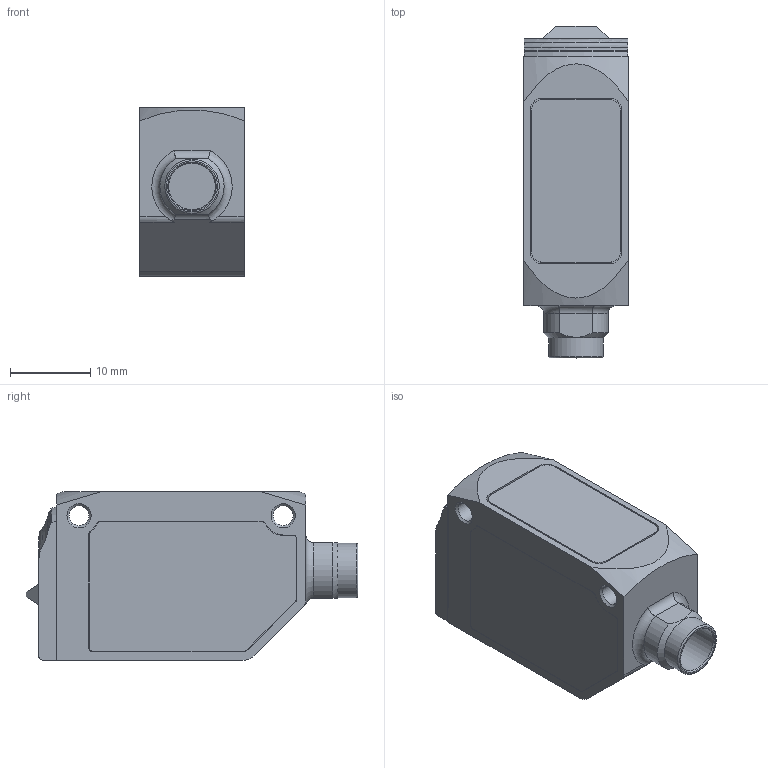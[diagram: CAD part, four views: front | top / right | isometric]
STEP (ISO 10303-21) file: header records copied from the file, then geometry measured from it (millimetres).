
FILE_DESCRIPTION( ( 'STEP AP203' ), ' ' );
FILE_NAME( 'p:/temp/worker_5435/3620_4168/app_42_02016090112533687429016192d056f_000000_00_00_000000/format_4/O6S400.stp', '2016-09-01T10:53:38', ( '' ), ( '' ), ' ', 'PARTsolutions', ' ' );
FILE_SCHEMA( ( 'CONFIG_CONTROL_DESIGN' ) );
Length unit declared in the file: millimetre
Products named in the file (1): _O6S400
Bounding box: 13 x 41.3 x 21 mm (x, y, z)
Volume: 8614.7 mm3; surface area: 3303.7 mm2
Topology: 1 solids, 1 shells, 100 faces, 260 edges, 169 vertices
Faces by surface type: plane 44, cylinder 42, torus 7, cone 7
Full cylindrical faces by diameter (mm): 2.459 x2, 5.8 x1, 6.773 x1
Entity records: 3130 total; most frequent: CARTESIAN_POINT 627, DIRECTION 522, ORIENTED_EDGE 496, EDGE_CURVE 248, AXIS2_PLACEMENT_3D 193, VERTEX_POINT 168, LINE 136, VECTOR 136
